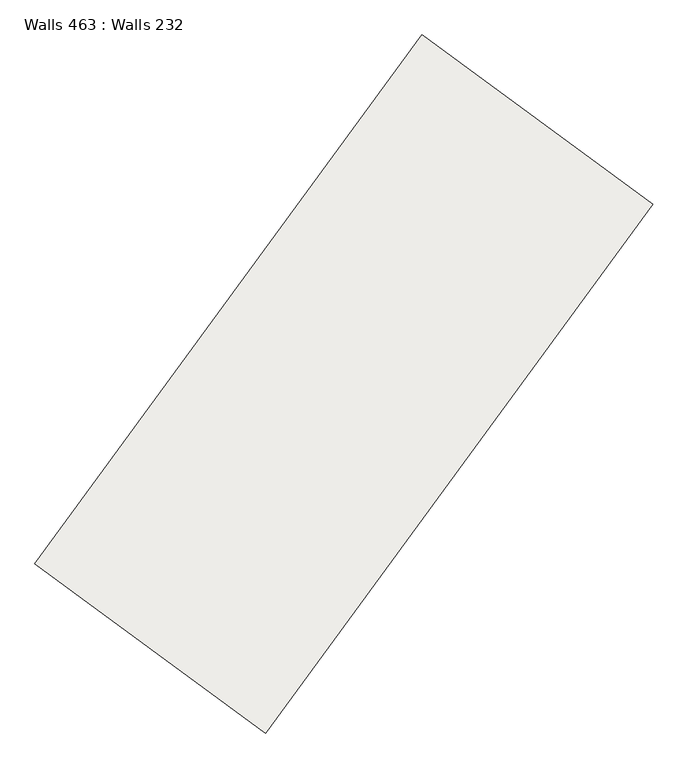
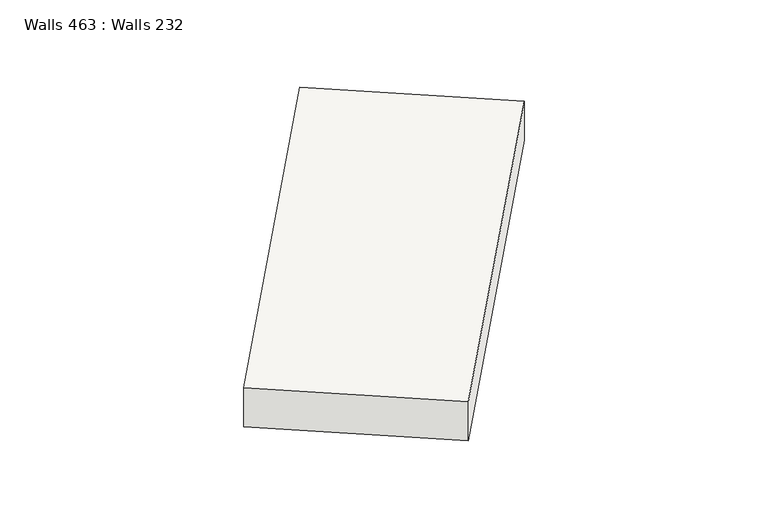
"""IFC4 building model written with IfcOpenShell, lengths in millimetres: slab geometry, Walls 463 : Walls 232."""

from ifc_helpers import new_model, si_unit, frame, origin, place, context, project, spatial, polyline, outline, extrude, source, transform, mapped, element, save


def walls_463_walls_232_3fbb92da(model_context):
    return source(origin(), model_context, "Body", "SweptSolid", [
        extrude(outline(polyline([(-400.0, 0.0), (400.0, 0.0), (287.8, -8699.9999993), (-512.2, -8699.9999993), (-400.0, 0.0)])), frame((444895.6742399, 325553.887968, 646323.6), z_axis=(-0.806701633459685, 0.5909589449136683, 0.0), x_axis=(0.0, 0.0, 1.0)), (0.0, 0.0, 1.0), 3800.0),
    ])


if __name__ == "__main__":
    model = new_model("IFC4")
    model_context = context("Model", 3, world=origin())
    ifc_project = project(units=[si_unit("LENGTHUNIT", "METRE", prefix="MILLI")], contexts=[model_context])
    site = spatial("IfcSite", under=ifc_project)
    building = spatial("IfcBuilding", under=site)
    placement = place(None, origin())
    walls_463_walls_232_shape = walls_463_walls_232_3fbb92da(model_context)
    element("IfcSlab", 1, ObjectType="Walls 463 : Walls 232", at=placement, inside=building, context=model_context, shape_type="MappedRepresentation", body=[
        mapped(walls_463_walls_232_shape, transform((0.0, 0.0, 0.0), x_axis=(1.0, 0.0, 0.0), y_axis=(0.0, 1.0, 0.0), z_axis=(0.0, 0.0, 1.0))),
    ])
    save(model, "model.ifc")
